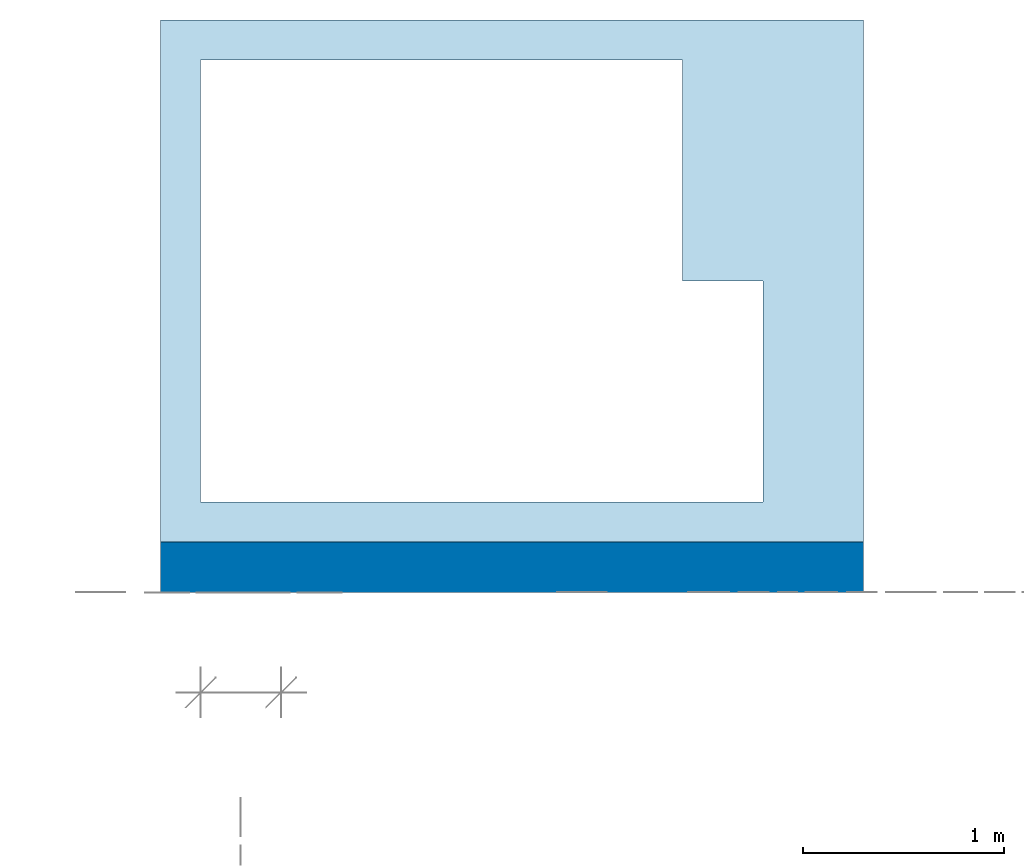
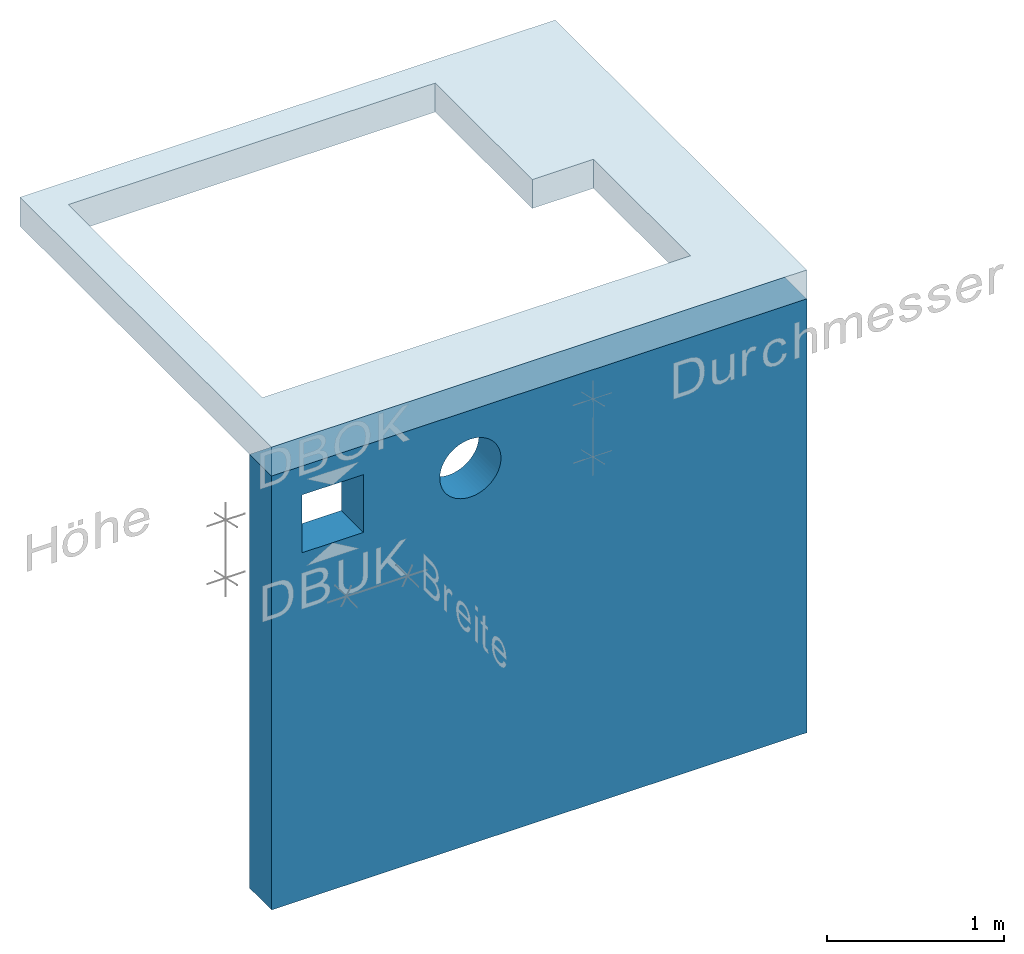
# One storey, part 1 of 3: 1 slab, 1 wall, 3 openings.
"""IFC4 building model written with IfcOpenShell, lengths in metres."""

from ifc_helpers import new_model, entity, si_unit, converted_unit, derived_unit, frame, frame_2d, origin, origin_with_axes, place, context, subcontext, project, spatial, polyline, rectangle, outline, extrude, material, layer, layer_set, layer_usage, element, save


model = new_model("IFC4")

# Units and contexts
model_context = context("Model", 3, precision=1e-05, world=origin())
body_context = subcontext(model_context, "Body", "Model", "MODEL_VIEW")
ifc_project = project(units=[si_unit("LENGTHUNIT", "METRE"), si_unit("AREAUNIT", "SQUARE_METRE"), si_unit("VOLUMEUNIT", "CUBIC_METRE"), si_unit("MASSUNIT", "GRAM", prefix="KILO"), converted_unit("PLANEANGLEUNIT", "DEGREE", entity("IfcPlaneAngleMeasure", 0.0174532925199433), si_unit("PLANEANGLEUNIT", "RADIAN"), dimensions=[0, 0, 0, 0, 0, 0, 0]), derived_unit("THERMALTRANSMITTANCEUNIT", [(si_unit("POWERUNIT", "WATT"), 1), (si_unit("THERMODYNAMICTEMPERATUREUNIT", "KELVIN"), -1), (si_unit("LENGTHUNIT", "METRE"), -2)]), derived_unit("VOLUMETRICFLOWRATEUNIT", [(si_unit("LENGTHUNIT", "METRE"), 3), (converted_unit("TIMEUNIT", "hour", entity("IfcTimeMeasure", 3600.0), si_unit("TIMEUNIT", "SECOND"), dimensions=[0, 0, 1, 0, 0, 0, 0]), -1), (si_unit("LENGTHUNIT", "METRE"), -1)])], contexts=[model_context])

# Site, building, storey
site_placement = place(None, origin())
site = spatial("IfcSite", under=ifc_project, at=site_placement, Name="Liegenschaft", CompositionType="ELEMENT")
building_placement = place(site_placement, origin())
building = spatial("IfcBuilding", under=site, at=building_placement, Name="Gebäude", CompositionType="ELEMENT")
storey_placement = place(building_placement, origin())
storey = spatial("IfcBuildingStorey", under=building, at=storey_placement, Name="Geschoss 01", CompositionType="ELEMENT", Elevation=0.0)

# Slab, opening
ifc_material_1 = material(Name="C25/30")
slab_placement = place(storey_placement, frame((246.18, 0.0, 3.0)))
slab = element("IfcSlab", 1, at=slab_placement, inside=storey, material=ifc_material_1, Name="WA_01", PredefinedType="FLOOR", context=body_context, shape_type="SweptSolid", body=[
    extrude(rectangle(XDim=3.5, YDim=2.85, at=frame_2d((1.75, 1.425), x_axis=(1.0, 0.0))), origin_with_axes(), (0.0, 0.0, 1.0), 0.2),
])
opening_1_placement = place(slab_placement, frame((0.2, 0.45, 0.0)))
element("IfcOpeningElement", 2, at=opening_1_placement, cuts=slab, Name="DDB_01", PredefinedType="OPENING", context=body_context, shape_type="SweptSolid", body=[
    extrude(outline(polyline([(-1.73333333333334, 1.1), (-1.73333333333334, -1.1), (1.06666666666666, -1.1), (1.06666666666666, 0.0), (0.666666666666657, 0.0), (0.666666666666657, 1.1), (-1.73333333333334, 1.1)])), frame((1.73333333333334, 1.1, 0.0), z_axis=(0.0, 0.0, 1.0), x_axis=(1.0, 0.0, 0.0)), (0.0, 0.0, 1.0), 0.2),
])

# Wall, openings
ifc_material_2 = material(Name="C25/30")
ifc_layer = layer(ifc_material_2, 0.25)
ifc_layer_set = layer_set([ifc_layer])
ifc_layer_usage = layer_usage(ifc_layer_set, "AXIS2", "POSITIVE", 0.0)
wall_placement = place(storey_placement, frame((246.18, 0.0, 0.0)))
wall = element("IfcWall", 3, at=wall_placement, inside=storey, material=ifc_layer_usage, Name="WA_01", context=body_context, shape_type="SweptSolid", body=[
    extrude(rectangle(XDim=3.5, YDim=0.25, at=frame_2d((1.75, 0.125), x_axis=(1.0, 0.0))), origin_with_axes(), (0.0, 0.0, 1.0), 3.0),
])
opening_2_placement = place(wall_placement, frame((1.1, 0.0, 2.4), z_axis=(0.0, 1.0, 0.0), x_axis=(0.0, 0.0, 1.0)))
element("IfcOpeningElement", 4, at=opening_2_placement, cuts=wall, Name="Wandnische", ObjectType="Opening", context=body_context, shape_type="SweptSolid", body=[
    extrude(outline(polyline([(0.2, 0.0), (0.179094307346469, 0.00109562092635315), (0.158417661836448, 0.0043704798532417), (0.138196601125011, 0.00978869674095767), (0.11865267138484, 0.0172909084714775), (0.1, 0.0267949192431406), (0.0824429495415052, 0.0381966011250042), (0.0661738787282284, 0.0513710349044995), (0.0513710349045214, 0.0661738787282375), (0.0381966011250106, 0.0824429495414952), (0.0267949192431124, 0.1), (0.0172909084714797, 0.118652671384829), (0.0097886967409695, 0.138196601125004), (0.00437047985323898, 0.158417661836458), (0.00109562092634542, 0.179094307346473), (0.0, 0.2), (0.00109562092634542, 0.220905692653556), (0.00437047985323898, 0.241582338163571), (0.0097886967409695, 0.261803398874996), (0.0172909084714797, 0.281347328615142), (0.0267949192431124, 0.3), (0.0381966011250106, 0.317557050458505), (0.0513710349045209, 0.333826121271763), (0.0661738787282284, 0.3486289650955), (0.0824429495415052, 0.361803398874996), (0.1, 0.373205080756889), (0.11865267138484, 0.382709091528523), (0.138196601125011, 0.390211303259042), (0.158417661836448, 0.395629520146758), (0.179094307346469, 0.398904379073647), (0.2, 0.4), (0.220905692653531, 0.398904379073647), (0.241582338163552, 0.395629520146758), (0.261803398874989, 0.390211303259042), (0.28134732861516, 0.382709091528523), (0.3, 0.373205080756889), (0.317557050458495, 0.361803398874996), (0.333826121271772, 0.3486289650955), (0.348628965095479, 0.333826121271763), (0.361803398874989, 0.317557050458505), (0.373205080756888, 0.3), (0.38270909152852, 0.281347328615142), (0.390211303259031, 0.261803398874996), (0.395629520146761, 0.241582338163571), (0.398904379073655, 0.220905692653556), (0.4, 0.2), (0.398904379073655, 0.179094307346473), (0.395629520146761, 0.158417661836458), (0.390211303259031, 0.138196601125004), (0.38270909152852, 0.118652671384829), (0.373205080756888, 0.1), (0.361803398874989, 0.0824429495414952), (0.348628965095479, 0.0661738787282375), (0.333826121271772, 0.0513710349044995), (0.317557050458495, 0.0381966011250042), (0.3, 0.0267949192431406), (0.28134732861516, 0.0172909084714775), (0.261803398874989, 0.00978869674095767), (0.241582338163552, 0.0043704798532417), (0.220905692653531, 0.00109562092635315), (0.2, 0.0)])), origin_with_axes(), (0.0, 0.0, 1.0), 0.25),
])
opening_3_placement = place(wall_placement, frame((0.2, 0.0, 2.4), z_axis=(0.0, 1.0, 0.0), x_axis=(0.0, 0.0, 1.0)))
element("IfcOpeningElement", 5, at=opening_3_placement, cuts=wall, Name="Wandnische", ObjectType="Opening", context=body_context, shape_type="SweptSolid", body=[
    extrude(outline(polyline([(0.0, 0.4), (0.4, 0.4), (0.4, 0.0), (0.0, 0.0), (0.0, 0.4)])), origin_with_axes(), (0.0, 0.0, 1.0), 0.25),
])

save(model, "model.ifc")
